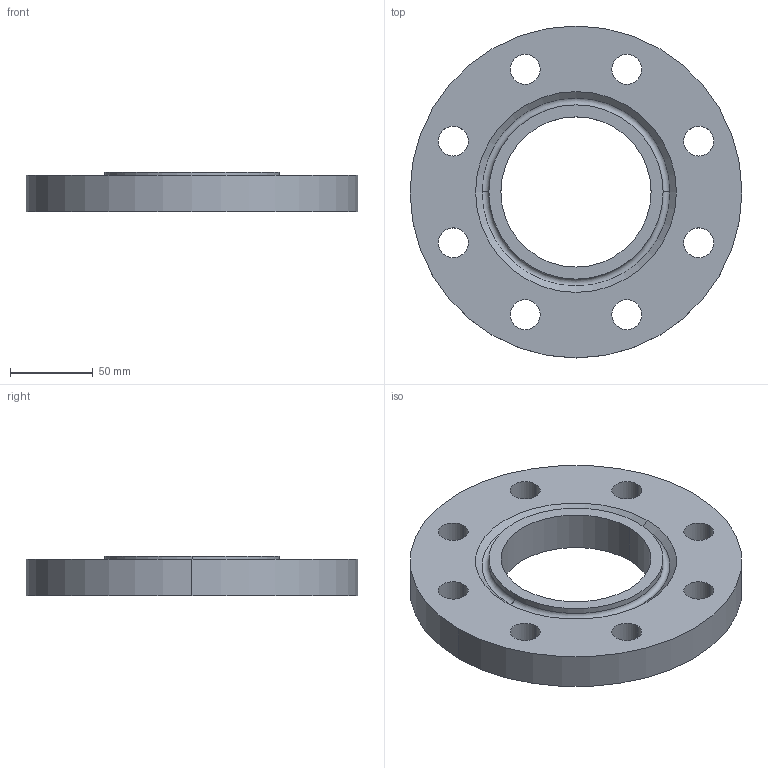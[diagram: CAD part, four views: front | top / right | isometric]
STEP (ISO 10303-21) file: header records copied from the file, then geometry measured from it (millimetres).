
FILE_DESCRIPTION (( 'STEP AP214' ), '1' );
FILE_NAME ('PN40 DN80 Type 01 - Type H Face.STEP', '2019-01-01T19:47:07', ( '' ), ( '' ), 'SwSTEP 2.0', 'SolidWorks 2019', '' );
FILE_SCHEMA (( 'AUTOMOTIVE_DESIGN' ));
Length unit declared in the file: millimetre
Products named in the file (1): PN40 DN80 Type 01 - Type H Face
Bounding box: 200 x 200 x 24 mm (x, y, z)
Volume: 501801.2 mm3; surface area: 78644.2 mm2
Topology: 1 solids, 1 shells, 29 faces, 74 edges, 48 vertices
Faces by surface type: cylinder 22, plane 3, torus 2, cone 2
Entity records: 976 total; most frequent: DIRECTION 184, CARTESIAN_POINT 152, ORIENTED_EDGE 148, AXIS2_PLACEMENT_3D 80, EDGE_CURVE 74, CIRCLE 50, EDGE_LOOP 48, VERTEX_POINT 48
